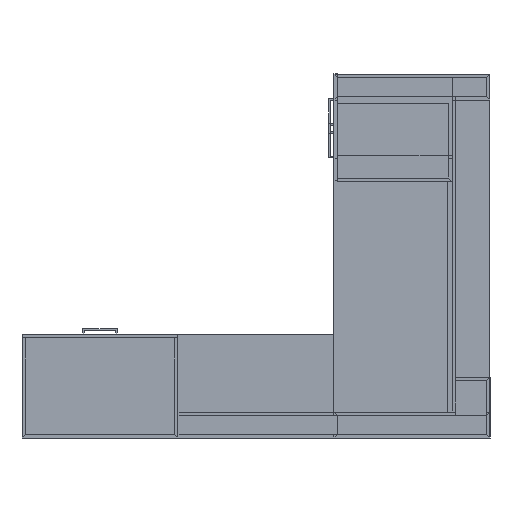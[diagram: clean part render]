
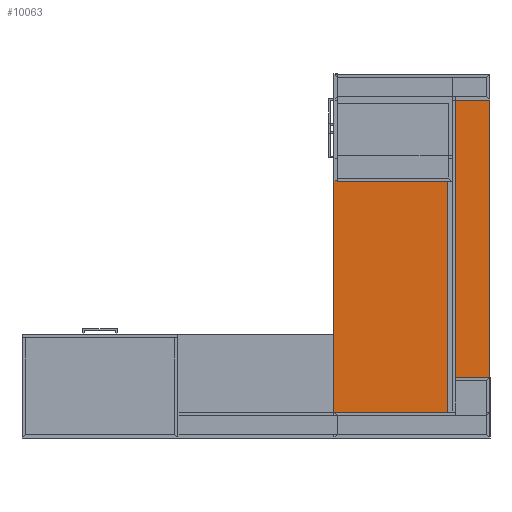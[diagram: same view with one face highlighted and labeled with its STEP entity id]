
A CAD part, front view. The second image highlights one B-rep face of the part: STEP entity #10063.
In plain terms, the highlighted planar face has unit normal (0, -1, 0).
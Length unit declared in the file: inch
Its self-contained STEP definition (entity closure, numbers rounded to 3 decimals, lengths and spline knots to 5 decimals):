
#2351=FACE_OUTER_BOUND('',#2876,.T.);
#2876=EDGE_LOOP('',(#7931,#7932,#7933,#7934));
#3584=LINE('',#15373,#4652);
#3588=LINE('',#15381,#4656);
#3591=LINE('',#15387,#4659);
#3594=LINE('',#15392,#4662);
#4652=VECTOR('',#12385,0.3937);
#4656=VECTOR('',#12391,0.3937);
#4659=VECTOR('',#12396,0.3937);
#4662=VECTOR('',#12401,0.3937);
#5598=VERTEX_POINT('',#15371);
#5599=VERTEX_POINT('',#15372);
#5602=VERTEX_POINT('',#15380);
#5604=VERTEX_POINT('',#15386);
#6447=EDGE_CURVE('',#5598,#5599,#3584,.T.);
#6451=EDGE_CURVE('',#5602,#5598,#3588,.T.);
#6454=EDGE_CURVE('',#5604,#5602,#3591,.T.);
#6457=EDGE_CURVE('',#5599,#5604,#3594,.T.);
#7931=ORIENTED_EDGE('',*,*,#6457,.F.);
#7932=ORIENTED_EDGE('',*,*,#6447,.F.);
#7933=ORIENTED_EDGE('',*,*,#6451,.F.);
#7934=ORIENTED_EDGE('',*,*,#6454,.F.);
#9558=PLANE('',#11188);
#10063=ADVANCED_FACE('',(#2351),#9558,.F.);
#11188=AXIS2_PLACEMENT_3D('',#15395,#12405,#12406);
#12385=DIRECTION('',(1.,0.,0.));
#12391=DIRECTION('',(0.,0.,1.));
#12396=DIRECTION('',(-1.,0.,0.));
#12401=DIRECTION('',(0.,0.,-1.));
#12405=DIRECTION('center_axis',(0.,1.,0.));
#12406=DIRECTION('ref_axis',(0.,0.,1.));
#15371=CARTESIAN_POINT('',(-78.,27.625,0.));
#15372=CARTESIAN_POINT('',(6.,27.625,0.));
#15373=CARTESIAN_POINT('',(-78.,27.625,0.));
#15380=CARTESIAN_POINT('',(-78.,27.625,-36.));
#15381=CARTESIAN_POINT('',(-78.,27.625,-36.));
#15386=CARTESIAN_POINT('',(6.,27.625,-36.));
#15387=CARTESIAN_POINT('',(6.,27.625,-36.));
#15392=CARTESIAN_POINT('',(6.,27.625,0.));
#15395=CARTESIAN_POINT('Origin',(-36.,27.625,-18.));
